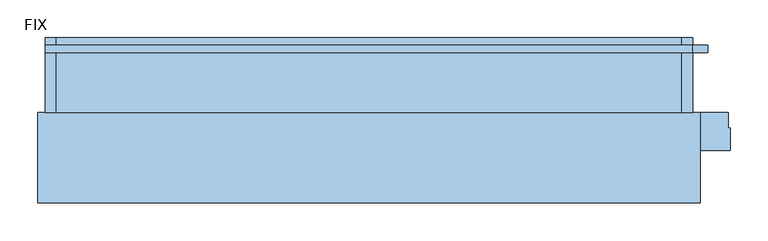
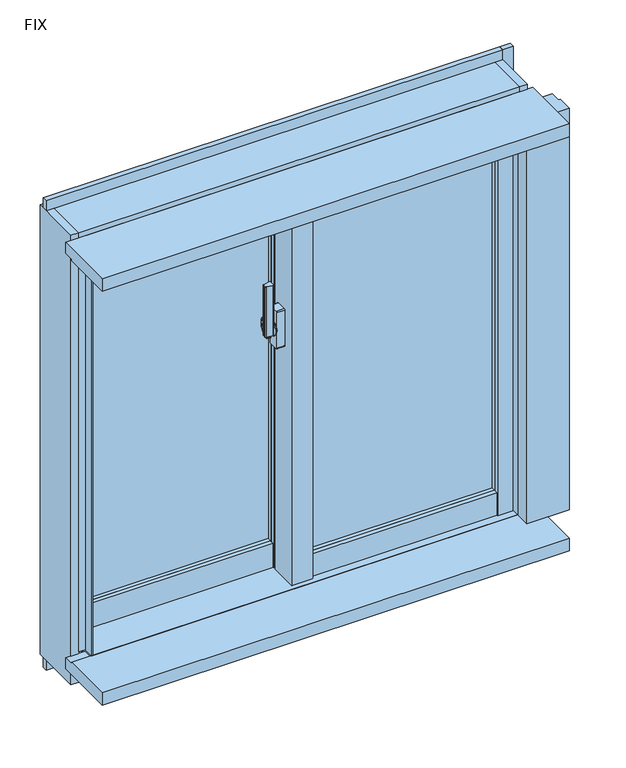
"""IFC4 building model written with IfcOpenShell, lengths in millimetres: window geometry, FNSⅡ100R_個別防火_面付枠_単窓 : FIX."""

from ifc_helpers import new_model, si_unit, point, frame, frame_2d, origin, place, context, project, spatial, polyline, circle_curve, trimmed, segment, composite_curve, outline, extrude, faceted_brep, source, transform, mapped, element, save
from ifc_brep_helpers import plane_surface, cylinder_surface, revolved_surface, advanced_brep


def fix_027afd31(model_context):
    return source(origin(), model_context, "Body", "SolidModel", [
        extrude(outline(composite_curve([segment(polyline([(-39.0, 34.6), (-39.0, 26.4)]), True, "CONTINUOUS"), segment(trimmed(circle_curve(frame_2d((-41.0, 26.4)), 2.0), [point((-39.0, 26.4))], [point((-41.3606557, 24.4327869))], False, "CARTESIAN"), True, "CONTINUOUS"), segment(polyline([(-41.3606557, 24.4327869), (-52.3606557, 26.4494536)]), True, "CONTINUOUS"), segment(trimmed(circle_curve(frame_2d((-52.0, 28.4166667)), 2.0), [point((-52.3606557, 26.4494536))], [point((-54.0, 28.4166667))], False, "CARTESIAN"), True, "CONTINUOUS"), segment(polyline([(-54.0, 28.4166667), (-54.0, 32.5833333)]), True, "CONTINUOUS"), segment(trimmed(circle_curve(frame_2d((-52.0, 32.5833333)), 2.0), [point((-54.0, 32.5833333))], [point((-52.3606557, 34.5505464))], False, "CARTESIAN"), True, "CONTINUOUS"), segment(polyline([(-52.3606557, 34.5505464), (-41.3606557, 36.5672131)]), True, "CONTINUOUS"), segment(trimmed(circle_curve(frame_2d((-41.0, 34.6)), 2.0), [point((-41.3606557, 36.5672131))], [point((-39.0, 34.6))], False, "CARTESIAN"), True, "CONTINUOUS")], self_intersect=False)), frame((0.0, 0.0, 1390.0), z_axis=(0.0, 0.0, 1.0), x_axis=(1.0, 0.0, 0.0)), (0.0, 0.0, 1.0), 100.0),
        advanced_brep(
        [(-37.5, 38.8234285, 1421.7333311), (-45.5, 38.8234285, 1421.7333311), (-45.5, 38.4351999, 1420.2844424), (-39.0, 38.4351999, 1420.2844424), (-39.0, 36.6234666, 1413.5229616), (-37.5, 36.6234666, 1413.5229616), (-39.0, 36.6466117, 1379.3190372), (-45.5, 36.6466117, 1379.3190372), (-45.5, 36.907084, 1377.8418256), (-37.5, 36.907084, 1377.8418256), (-37.5, 35.4310745, 1386.2126915), (-39.0, 35.4310745, 1386.2126915)],
        [
            (0, 1),
            (1, 2),
            (2, 3),
            (3, 4),
            (4, 5),
            (5, 0),
            (6, 7),
            (7, 8),
            (8, 9),
            (9, 10),
            (10, 11),
            (11, 6),
            (0, 9, circle_curve(frame((-37.5, 33.0, 1400.0), z_axis=(-1.0, 0.0, 0.0), x_axis=(0.0, 0.25881904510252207, 0.965925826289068)), 22.5)),
            (8, 1, circle_curve(frame((-45.5, 33.0, 1400.0), z_axis=(1.0, 0.0, 0.0), x_axis=(0.0, 0.25881904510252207, 0.965925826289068)), 22.5)),
            (7, 2, circle_curve(frame((-45.5, 33.0, 1400.0), z_axis=(1.0, 0.0, 0.0), x_axis=(0.0, 0.25881904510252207, 0.965925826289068)), 21.0)),
            (6, 3, circle_curve(frame((-39.0, 33.0, 1400.0), z_axis=(1.0, 0.0, 0.0), x_axis=(0.0, 0.25881904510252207, 0.965925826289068)), 21.0)),
            (11, 4, circle_curve(frame((-39.0, 33.0, 1400.0), z_axis=(-1.0, 0.0, 0.0), x_axis=(0.0, -1.0, 0.0)), 14.0)),
            (5, 10, circle_curve(frame((-37.5, 33.0, 1400.0), z_axis=(1.0, 0.0, 0.0), x_axis=(0.0, -1.0, 0.0)), 14.0)),
        ],
        [
            plane_surface(frame((-43.5470497, 33.0, 1400.0), z_axis=(0.0, -0.965925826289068, 0.25881904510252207), x_axis=(0.0, 0.25881904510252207, 0.965925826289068))),
            plane_surface(frame((-43.5470497, 33.0, 1400.0), z_axis=(0.0, -0.9848077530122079, -0.17364817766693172), x_axis=(0.0, 0.17364817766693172, -0.9848077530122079))),
            cylinder_surface(frame((-43.5470497, 33.0, 1400.0), z_axis=(-1.0, 0.0, 0.0), x_axis=(0.0, 0.25881904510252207, 0.965925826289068)), 22.5),
            plane_surface(frame((-45.5, 33.0, 1400.0), z_axis=(-1.0, 0.0, 0.0), x_axis=(0.0, 0.25881904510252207, 0.965925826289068))),
            revolved_surface(polyline([(-45.5, 38.43519994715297, 1420.2844423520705), (-39.0, 38.43519994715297, 1420.2844423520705)]), (-43.5470497, 33.0, 1400.0), (-1.0, 0.0, 0.0)),
            plane_surface(frame((-39.0, 33.0, 1400.0), z_axis=(-1.0, 0.0, 0.0), x_axis=(0.0, 0.25881904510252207, 0.965925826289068))),
            plane_surface(frame((-37.5, 33.0, 1400.0), z_axis=(1.0, 0.0, 0.0), x_axis=(0.0, 0.25881904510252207, 0.965925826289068))),
            cylinder_surface(frame((-37.5, 33.0, 1400.0), z_axis=(-1.0, 0.0, 0.0), x_axis=(0.0, -1.0, 0.0)), 14.0),
        ],
        [
            (0, [[1, 2, 3, 4, 5, 6]]),
            (1, [[7, 8, 9, 10, 11, 12]]),
            (2, [[-1, 13, -9, 14]]),
            (3, [[-2, -14, -8, 15]]),
            (4, [[-3, -15, -7, 16]]),
            (5, [[-16, -12, 17, -4]]),
            (6, [[-13, -6, 18, -10]]),
            (7, [[-17, -11, -18, -5]]),
        ],
    ),
        extrude(outline(composite_curve([segment(trimmed(circle_curve(frame_2d((33.0, 1400.0)), 11.5), [point((44.5, 1400.0))], [point((21.5, 1400.0))], False, "CARTESIAN"), True, "CONTINUOUS"), segment(trimmed(circle_curve(frame_2d((33.0, 1400.0)), 11.5), [point((21.5, 1400.0))], [point((44.5, 1400.0))], False, "CARTESIAN"), True, "CONTINUOUS")], self_intersect=False)), frame((-37.5, 0.0, 0.0), z_axis=(1.0, 0.0, 0.0), x_axis=(0.0, 1.0, 0.0)), (0.0, 0.0, 1.0), 2.5),
        extrude(outline(composite_curve([segment(polyline([(24.0, 1437.5), (42.0, 1437.5)]), True, "CONTINUOUS"), segment(trimmed(circle_curve(frame_2d((42.0, 1435.5)), 2.0), [point((42.0, 1437.5))], [point((44.0, 1435.5))], False, "CARTESIAN"), True, "CONTINUOUS"), segment(polyline([(44.0, 1435.5), (44.0, 1364.5)]), True, "CONTINUOUS"), segment(trimmed(circle_curve(frame_2d((42.0, 1364.5)), 2.0), [point((44.0, 1364.5))], [point((42.0, 1362.5))], False, "CARTESIAN"), True, "CONTINUOUS"), segment(polyline([(42.0, 1362.5), (24.0, 1362.5)]), True, "CONTINUOUS"), segment(trimmed(circle_curve(frame_2d((24.0, 1364.5)), 2.0), [point((24.0, 1362.5))], [point((22.0, 1364.5))], False, "CARTESIAN"), True, "CONTINUOUS"), segment(polyline([(22.0, 1364.5), (22.0, 1435.5)]), True, "CONTINUOUS"), segment(trimmed(circle_curve(frame_2d((24.0, 1435.5)), 2.0), [point((22.0, 1435.5))], [point((24.0, 1437.5))], False, "CARTESIAN"), True, "CONTINUOUS")], self_intersect=False)), frame((-35.0, 0.0, 0.0), z_axis=(1.0, 0.0, 0.0), x_axis=(0.0, 1.0, 0.0)), (0.0, 0.0, 1.0), 15.0),
        extrude(outline(polyline([(20.0, 24.0), (368.0, 24.0), (368.0, 18.0), (20.0, 18.0), (20.0, 24.0)])), frame((0.0, 0.0, 948.0), z_axis=(0.0, 0.0, 1.0), x_axis=(1.0, 0.0, 0.0)), (0.0, 0.0, 1.0), 712.0),
        extrude(outline(polyline([(20.0, 42.0), (368.0, 42.0), (368.0, 36.0), (20.0, 36.0), (20.0, 42.0)])), frame((0.0, 0.0, 948.0), z_axis=(0.0, 0.0, 1.0), x_axis=(1.0, 0.0, 0.0)), (0.0, 0.0, 1.0), 712.0),
        extrude(outline(polyline([(-368.0, 82.0), (-20.0, 82.0), (-20.0, 76.0), (-368.0, 76.0), (-368.0, 82.0)])), frame((0.0, 0.0, 948.0), z_axis=(0.0, 0.0, 1.0), x_axis=(1.0, 0.0, 0.0)), (0.0, 0.0, 1.0), 712.0),
        extrude(outline(polyline([(-368.0, 100.0), (-20.0, 100.0), (-20.0, 94.0), (-368.0, 94.0), (-368.0, 100.0)])), frame((0.0, 0.0, 948.0), z_axis=(0.0, 0.0, 1.0), x_axis=(1.0, 0.0, 0.0)), (0.0, 0.0, 1.0), 712.0),
        faceted_brep([(-400.0, 79.0, 1700.0), (-389.5, 79.0, 1700.0), (-389.5, 66.0, 1700.0), (-368.0, 66.0, 1700.0), (-368.0, 108.0, 1700.0), (-400.0, 108.0, 1700.0), (-368.0, 79.0, 860.0), (-400.0, 79.0, 860.0), (-400.0, 108.0, 860.0), (-368.0, 108.0, 860.0), (-368.0, 79.0, 900.0), (-389.5, 79.0, 900.0), (-389.5, 66.0, 900.0), (-368.0, 66.0, 900.0)], [[[0, 1, 2, 3, 4, 5]], [[6, 7, 8, 9]], [[1, 0, 7, 6, 10, 11]], [[2, 1, 11, 12]], [[3, 2, 12, 13]], [[4, 3, 13, 10, 6, 9]], [[5, 4, 9, 8]], [[7, 0, 5, 8]], [[11, 10, 13, 12]]]),
        faceted_brep([(-20.0, 65.5, 1700.0), (-1.8, 65.5, 1700.0), (-1.8, 53.1, 1700.0), (20.0, 53.1, 1700.0), (20.0, 108.0, 1700.0), (-20.0, 108.0, 1700.0), (-20.0, 108.0, 860.0), (20.0, 108.0, 860.0), (20.0, 79.0, 860.0), (-20.0, 79.0, 860.0), (-20.0, 65.5, 900.0), (-1.8, 65.5, 900.0), (-1.8, 53.1, 900.0), (20.0, 53.1, 900.0), (20.0, 79.0, 900.0), (-20.0, 79.0, 900.0)], [[[0, 1, 2, 3, 4, 5]], [[6, 7, 8, 9]], [[1, 0, 10, 11]], [[2, 1, 11, 12]], [[3, 2, 12, 13]], [[4, 3, 13, 14, 8, 7]], [[5, 4, 7, 6]], [[0, 5, 6, 9, 15, 10]], [[14, 15, 9, 8]], [[15, 14, 13, 12, 11, 10]]]),
        extrude(outline(polyline([(-20.0, 53.1), (-15.0, 53.1), (-15.0, 8.0), (15.0, 8.0), (15.0, 12.0), (20.0, 12.0), (20.0, 0.0), (-20.0, 0.0), (-20.0, 53.1)])), frame((0.0, 0.0, 900.0), z_axis=(0.0, 0.0, 1.0), x_axis=(1.0, 0.0, 0.0)), (0.0, 0.0, 1.0), 800.0),
        extrude(outline(polyline([(-15.0, 53.1), (20.0, 53.1), (20.0, 12.0), (15.0, 12.0), (15.0, 8.0), (-15.0, 8.0), (-15.0, 53.1)])), frame((0.0, 0.0, 900.0), z_axis=(0.0, 0.0, 1.0), x_axis=(1.0, 0.0, 0.0)), (0.0, 0.0, 1.0), 800.0),
        extrude(outline(polyline([(368.0, 0.0), (368.0, 8.0), (389.5, 8.0), (389.5, 21.0), (397.0, 21.0), (397.0, 0.0), (368.0, 0.0)])), frame((0.0, 0.0, 903.0), z_axis=(0.0, 0.0, 1.0), x_axis=(1.0, 0.0, 0.0)), (0.0, 0.0, 1.0), 797.0),
        extrude(outline(polyline([(368.0, 50.0), (400.0, 50.0), (400.0, 21.0), (389.5, 21.0), (389.5, 8.0), (368.0, 8.0), (368.0, 50.0)])), frame((0.0, 0.0, 900.0), z_axis=(0.0, 0.0, 1.0), x_axis=(1.0, 0.0, 0.0)), (0.0, 0.0, 1.0), 800.0),
        extrude(outline(polyline([(-1.85, 65.5), (-1.85, 58.0), (-20.0, 58.0), (-20.0, 65.5), (-1.85, 65.5)])), frame((0.0, 0.0, 900.0), z_axis=(0.0, 0.0, 1.0), x_axis=(1.0, 0.0, 0.0)), (0.0, 0.0, 1.0), 800.0),
        extrude(outline(polyline([(-397.0, 79.0), (-389.5, 79.0), (-389.5, 66.0), (-368.0, 66.0), (-368.0, 58.0), (-397.0, 58.0), (-397.0, 79.0)])), frame((0.0, 0.0, 900.0), z_axis=(0.0, 0.0, 1.0), x_axis=(1.0, 0.0, 0.0)), (0.0, 0.0, 1.0), 800.0),
        extrude(outline(polyline([(2.0, 903.0), (2.0, 948.0), (10.0, 948.0), (10.0, 925.5), (21.0, 925.5), (21.0, 903.0), (2.0, 903.0)])), frame((20.0, 0.0, 0.0), z_axis=(1.0, 0.0, 0.0), x_axis=(0.0, 1.0, 0.0)), (0.0, 0.0, 1.0), 348.0),
        extrude(outline(polyline([(50.0, 900.0), (21.0, 900.0), (21.0, 925.5), (10.0, 925.5), (10.0, 948.0), (50.0, 948.0), (50.0, 900.0)])), frame((20.0, 0.0, 0.0), z_axis=(1.0, 0.0, 0.0), x_axis=(0.0, 1.0, 0.0)), (0.0, 0.0, 1.0), 348.0),
        extrude(outline(polyline([(60.0, 948.0), (68.0, 948.0), (68.0, 925.5), (79.0, 925.5), (79.0, 900.0), (60.0, 900.0), (60.0, 948.0)])), frame((-368.0, 0.0, 0.0), z_axis=(1.0, 0.0, 0.0), x_axis=(0.0, 1.0, 0.0)), (0.0, 0.0, 1.0), 348.0),
        extrude(outline(polyline([(108.0, 860.0), (79.0, 860.0), (79.0, 925.5), (68.0, 925.5), (68.0, 948.0), (108.0, 948.0), (108.0, 860.0)])), frame((-368.0, 0.0, 0.0), z_axis=(1.0, 0.0, 0.0), x_axis=(0.0, 1.0, 0.0)), (0.0, 0.0, 1.0), 348.0),
        extrude(outline(polyline([(23.0, 1680.5), (10.0, 1680.5), (10.0, 1660.0), (2.0, 1660.0), (2.0, 1700.0), (23.0, 1700.0), (23.0, 1680.5)])), frame((20.0, 0.0, 0.0), z_axis=(1.0, 0.0, 0.0), x_axis=(0.0, 1.0, 0.0)), (0.0, 0.0, 1.0), 348.0),
        extrude(outline(polyline([(50.0, 1700.0), (50.0, 1660.0), (10.0, 1660.0), (10.0, 1680.5), (23.0, 1680.5), (23.0, 1700.0), (50.0, 1700.0)])), frame((20.0, 0.0, 0.0), z_axis=(1.0, 0.0, 0.0), x_axis=(0.0, 1.0, 0.0)), (0.0, 0.0, 1.0), 348.0),
        extrude(outline(polyline([(81.0, 1680.5), (68.0, 1680.5), (68.0, 1660.0), (60.0, 1660.0), (60.0, 1700.0), (81.0, 1700.0), (81.0, 1680.5)])), frame((-368.0, 0.0, 0.0), z_axis=(1.0, 0.0, 0.0), x_axis=(0.0, 1.0, 0.0)), (0.0, 0.0, 1.0), 348.0),
        extrude(outline(polyline([(108.0, 1700.0), (108.0, 1660.0), (68.0, 1660.0), (68.0, 1680.5), (81.0, 1680.5), (81.0, 1700.0), (108.0, 1700.0)])), frame((-368.0, 0.0, 0.0), z_axis=(1.0, 0.0, 0.0), x_axis=(0.0, 1.0, 0.0)), (0.0, 0.0, 1.0), 348.0),
        extrude(outline(polyline([(-15.0, 80.3), (-15.0, 31.9), (-400.0, 31.9), (-400.0, 80.3), (-15.0, 80.3)])), frame((0.0, 0.0, 1700.0), z_axis=(0.0, 0.0, 1.0), x_axis=(1.0, 0.0, 0.0)), (0.0, 0.0, 1.0), 25.0),
        faceted_brep([(415.0, 80.3, 1725.0), (415.0, 10.0, 1725.0), (-415.0, 10.0, 1725.0), (-415.0, 80.3, 1725.0), (-15.0, 80.3, 1725.0), (-15.0, 31.9, 1725.0), (400.0, 31.9, 1725.0), (400.0, 80.3, 1725.0), (415.0, 80.3, 1700.0), (400.0, 80.3, 1700.0), (-415.0, 80.3, 1700.0), (-15.0, 80.3, 1700.0), (415.0, 110.0, 1700.0), (400.0, 31.9, 1700.0), (-15.0, 31.9, 1700.0), (-415.0, 110.0, 1700.0), (415.0, 110.0, 1735.0), (-415.0, 110.0, 1735.0), (415.0, 10.0, 1735.0), (-415.0, 10.0, 1735.0)], [[[0, 1, 2, 3, 4, 5, 6, 7]], [[8, 0, 7, 9]], [[3, 10, 11, 4]], [[12, 8, 9, 13, 14, 11, 10, 15]], [[16, 12, 15, 17]], [[18, 16, 17, 19]], [[1, 18, 19, 2]], [[12, 16, 18, 1, 0, 8]], [[15, 10, 3, 2, 19, 17]], [[6, 13, 9, 7]], [[11, 14, 5, 4]], [[13, 6, 5, 14]]]),
        extrude(outline(polyline([(31.9, 1700.0), (-10.0, 1700.0), (-10.0, 1703.0), (10.0, 1703.0), (10.0, 1725.0), (31.9, 1725.0), (31.9, 1700.0)])), frame((-400.0, 0.0, 0.0), z_axis=(1.0, 0.0, 0.0), x_axis=(0.0, 1.0, 0.0)), (0.0, 0.0, 1.0), 800.0),
        faceted_brep([(400.0, 10.0, 1720.0), (415.0, 10.0, 1720.0), (415.0, 14.5, 1720.0), (400.0, 14.5, 1720.0), (400.0, -10.0, 900.0), (400.0, 14.5, 900.0), (415.0, 14.5, 900.0), (415.0, 10.0, 900.0), (403.0, 10.0, 900.0), (403.0, -10.0, 900.0), (403.0, -10.0, 1703.0), (400.0, -10.0, 1703.0), (403.0, 10.0, 1703.0), (400.0, 10.0, 1703.0)], [[[0, 1, 2, 3]], [[4, 5, 6, 7, 8, 9]], [[4, 9, 10, 11]], [[9, 8, 12, 10]], [[0, 13, 12, 8, 7, 1]], [[2, 1, 7, 6]], [[3, 2, 6, 5]], [[5, 4, 11, 13, 0, 3]], [[12, 13, 11, 10]]]),
        faceted_brep([(-415.0, 10.0, 1720.0), (-400.0, 10.0, 1720.0), (-400.0, 76.0, 1720.0), (-415.0, 76.0, 1720.0), (-415.0, 10.0, 900.0), (-415.0, 76.0, 900.0), (-400.0, 76.0, 900.0), (-400.0, -10.0, 900.0), (-403.0, -10.0, 900.0), (-403.0, 10.0, 900.0), (-403.0, 10.0, 1703.0), (-400.0, 10.0, 1703.0), (-403.0, -10.0, 1703.0), (-400.0, -10.0, 1703.0)], [[[0, 1, 2, 3]], [[4, 5, 6, 7, 8, 9]], [[4, 9, 10, 11, 1, 0]], [[9, 8, 12, 10]], [[8, 7, 13, 12]], [[7, 6, 2, 1, 11, 13]], [[3, 2, 6, 5]], [[4, 0, 3, 5]], [[11, 10, 12, 13]]]),
        faceted_brep([(-430.0, 110.0, 1735.0), (-430.0, 10.0, 1735.0), (-415.0, 10.0, 1735.0), (-415.0, 110.0, 1735.0), (-430.0, 110.0, 840.0), (-415.0, 110.0, 840.0), (-415.0, 10.0, 840.0), (-430.0, 10.0, 840.0), (-415.0, 110.0, 849.0), (-415.0, 76.0, 849.0), (-415.0, 76.0, 1700.0), (-415.0, 110.0, 1700.0), (-400.0, 110.0, 1700.0), (-400.0, 110.0, 849.0), (-400.0, 76.0, 1700.0), (-400.0, 76.0, 849.0)], [[[0, 1, 2, 3]], [[4, 5, 6, 7]], [[1, 0, 4, 7]], [[2, 1, 7, 6]], [[3, 2, 6, 5, 8, 9, 10, 11]], [[0, 3, 11, 12, 13, 8, 5, 4]], [[12, 11, 10, 14]], [[13, 15, 9, 8]], [[14, 10, 9, 15]], [[12, 14, 15, 13]]]),
        faceted_brep([(415.0, 10.0, 1735.0), (430.0, 10.0, 1735.0), (430.0, 110.0, 1735.0), (415.0, 110.0, 1735.0), (415.0, 10.0, 840.0), (415.0, 110.0, 840.0), (430.0, 110.0, 840.0), (430.0, 10.0, 840.0), (415.0, 14.5, 1700.0), (400.0, 14.5, 1700.0), (400.0, 14.5, 849.0), (415.0, 14.5, 849.0), (400.0, 110.0, 1700.0), (400.0, 110.0, 849.0), (415.0, 110.0, 1700.0), (415.0, 110.0, 849.0)], [[[0, 1, 2, 3]], [[4, 5, 6, 7]], [[8, 9, 10, 11]], [[9, 12, 13, 10]], [[9, 8, 14, 12]], [[10, 13, 15, 11]], [[1, 0, 4, 7]], [[2, 1, 7, 6]], [[3, 2, 6, 5, 15, 13, 12, 14]], [[0, 3, 14, 8, 11, 15, 5, 4]]]),
        faceted_brep([(415.0, 10.0, 884.0), (415.0, 76.0, 884.0), (-415.0, 76.0, 884.0), (-415.0, 10.0, 884.0), (400.0, 37.25, 884.0), (400.0, 18.8, 884.0), (-15.0, 18.8, 884.0), (-15.0, 37.25, 884.0), (415.0, 76.0, 849.0), (-415.0, 76.0, 849.0), (415.0, 110.0, 849.0), (-415.0, 110.0, 849.0), (415.0, 110.0, 840.0), (415.0, 10.0, 840.0), (-415.0, 10.0, 840.0), (-415.0, 110.0, 840.0), (400.0, 18.8, 900.0), (400.0, 37.25, 900.0), (-15.0, 18.8, 900.0), (-15.0, 37.25, 900.0)], [[[0, 1, 2, 3], [4, 5, 6, 7]], [[1, 8, 9, 2]], [[8, 10, 11, 9]], [[12, 13, 14, 15]], [[12, 10, 8, 1, 0, 13]], [[15, 14, 3, 2, 9, 11]], [[13, 0, 3, 14]], [[10, 12, 15, 11]], [[16, 5, 4, 17]], [[18, 19, 7, 6]], [[5, 16, 18, 6]], [[17, 4, 7, 19]], [[16, 17, 19, 18]]]),
        faceted_brep([(403.0, -10.0, 900.0), (403.0, -10.0, 897.0), (403.0, 10.0, 897.0), (403.0, 10.0, 884.0), (403.0, 14.5, 884.0), (403.0, 14.5, 900.0), (-403.0, 10.0, 884.0), (-403.0, 10.0, 897.0), (-403.0, -10.0, 897.0), (-403.0, -10.0, 900.0), (-403.0, 18.8, 900.0), (-403.0, 18.8, 884.0), (400.0, 14.5, 900.0), (400.0, 18.8, 900.0), (-15.0, 18.8, 900.0), (-15.0, 76.0, 900.0), (-400.0, 76.0, 900.0), (-400.0, 18.8, 900.0), (-400.0, 18.8, 884.0), (400.0, 18.8, 884.0), (-15.0, 18.8, 884.0), (-400.0, 76.0, 884.0), (-15.0, 76.0, 884.0), (400.0, 14.5, 884.0)], [[[0, 1, 2, 3, 4, 5]], [[6, 7, 8, 9, 10, 11]], [[3, 2, 7, 6]], [[2, 1, 8, 7]], [[1, 0, 9, 8]], [[10, 9, 0, 5, 12, 13, 14, 15, 16, 17]], [[11, 10, 17, 18]], [[13, 19, 20, 14]], [[6, 11, 18, 21, 22, 20, 19, 23, 4, 3]], [[12, 23, 19, 13]], [[23, 12, 5, 4]], [[15, 14, 20, 22]], [[16, 21, 18, 17]], [[15, 22, 21, 16]]]),
        extrude(outline(polyline([(-110.0, 900.0), (-10.0, 900.0), (-10.0, 897.0), (10.0, 897.0), (10.0, 875.0), (-110.0, 875.0), (-110.0, 900.0)])), frame((-440.0, 0.0, 0.0), z_axis=(1.0, 0.0, 0.0), x_axis=(0.0, 1.0, 0.0)), (0.0, 0.0, 1.0), 880.0),
        extrude(outline(polyline([(-430.0, 90.0), (-430.0, 100.0), (430.0, 100.0), (430.0, 90.0), (-430.0, 90.0)])), frame((0.0, 0.0, 820.0), z_axis=(0.0, 0.0, 1.0), x_axis=(1.0, 0.0, 0.0)), (0.0, 0.0, 1.0), 20.0),
        extrude(outline(polyline([(450.0, 90.0), (430.0, 90.0), (430.0, 100.0), (450.0, 100.0), (450.0, 90.0)])), frame((0.0, 0.0, 820.0), z_axis=(0.0, 0.0, 1.0), x_axis=(1.0, 0.0, 0.0)), (0.0, 0.0, 1.0), 935.0),
        extrude(outline(polyline([(403.0, -10.0), (403.0, 10.0), (477.0, 10.0), (477.0, -10.0), (480.0, -10.0), (480.0, -40.0), (400.0, -40.0), (400.0, -10.0), (403.0, -10.0)])), frame((0.0, 0.0, 900.0), z_axis=(0.0, 0.0, 1.0), x_axis=(1.0, 0.0, 0.0)), (0.0, 0.0, 1.0), 800.0),
        extrude(outline(polyline([(-110.0, 1725.0), (10.0, 1725.0), (10.0, 1703.0), (-10.0, 1703.0), (-10.0, 1700.0), (-110.0, 1700.0), (-110.0, 1725.0)])), frame((-440.0, 0.0, 0.0), z_axis=(1.0, 0.0, 0.0), x_axis=(0.0, 1.0, 0.0)), (0.0, 0.0, 1.0), 880.0),
        extrude(outline(polyline([(-430.0, 90.0), (-430.0, 100.0), (430.0, 100.0), (430.0, 90.0), (-430.0, 90.0)])), frame((0.0, 0.0, 1735.0), z_axis=(0.0, 0.0, 1.0), x_axis=(1.0, 0.0, 0.0)), (0.0, 0.0, 1.0), 20.0),
    ])


if __name__ == "__main__":
    model = new_model("IFC4")
    model_context = context("Model", 3, world=origin())
    ifc_project = project(units=[si_unit("LENGTHUNIT", "METRE", prefix="MILLI")], contexts=[model_context])
    site = spatial("IfcSite", under=ifc_project)
    building = spatial("IfcBuilding", under=site)
    placement = place(None, origin())
    fix_shape = fix_027afd31(model_context)
    element("IfcWindow", 1, ObjectType="FNSⅡ100R_個別防火_面付枠_単窓 : FIX", at=placement, inside=building, context=model_context, shape_type="MappedRepresentation", body=[
        mapped(fix_shape, transform((0.0, 0.0, 0.0), x_axis=(1.0, 0.0, 0.0), y_axis=(0.0, 1.0, 0.0), z_axis=(0.0, 0.0, 1.0))),
    ])
    save(model, "model.ifc")
